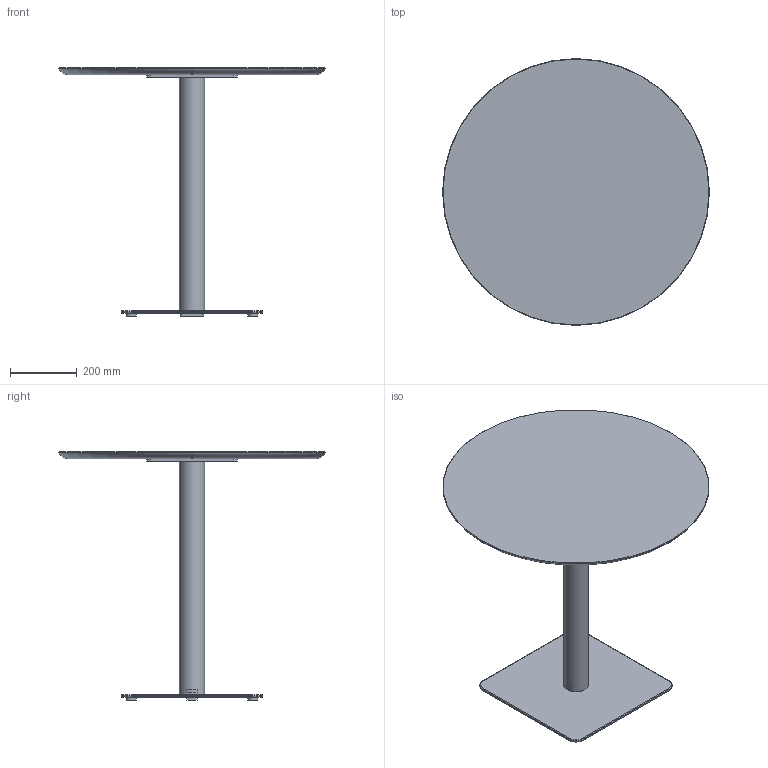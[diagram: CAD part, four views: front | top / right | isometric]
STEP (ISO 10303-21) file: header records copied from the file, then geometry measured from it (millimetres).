
FILE_DESCRIPTION( ('This file contains a STEP AP42 implementation' ,'as created by ZW3D STEP Interface translator.') ,'2;1' );
FILE_NAME( 'Henri - B_Carré - F1 - M3 - 700 x 700 x 750.stp' ,'24 912.161911', (''), ('ZWCAD Software Co.'), 'Version 1.0', 'ZW3D to STEP translator', '' );
FILE_SCHEMA(('AUTOMOTIVE_DESIGN { 1 0 10303 214 1 1 1 1 }'));
Length unit declared in the file: millimetre
Products named in the file (15): 0; PIED BISTROT PARAMETRIQUE_; COLONNE ACIER Ø76 V.02_; TUB-D076-02_; PLA-R76B-01_; CROIX ACIER 370 V.02_; CRX-X370-02_; SOCLE ACIER L 425x425 V.02_; SCL-R425-02_; PLA-R30A-01_; PLA-R30A-01; WUERTH 0276063020 Euro-screw 6.3x2 Verzinkt_; PLATEAU BISTROT PARAMETRIQUE_; insert_m6_13_; insert_m6_13
Assembly tree (22 placements, depth 3):
  0
  PIED BISTROT PARAMETRIQUE_
    COLONNE ACIER Ø76 V.02_
      TUB-D076-02_
      PLA-R76B-01_  x2
    CROIX ACIER 370 V.02_
      CRX-X370-02_
    SOCLE ACIER L 425x425 V.02_
      SCL-R425-02_
      PLA-R30A-01_
      PLA-R30A-01  x3
    WUERTH 0276063020 Euro-screw 6.3x2 Verzinkt_
    PLATEAU BISTROT PARAMETRIQUE_
      insert_m6_13_  x2
      insert_m6_13  x6
Bounding box: 800 x 800 x 744 mm (x, y, z)
Volume: 12053072.4 mm3; surface area: 1918859.5 mm2
Topology: 19 solids, 19 shells, 537 faces, 1310 edges, 822 vertices
Faces by surface type: plane 258, bspline 121, cylinder 102, cone 51, torus 5
Full cylindrical faces by diameter (mm): 4.88 x1, 6 x8, 6.3 x1, 8 x45, 12 x2, 14 x2, 30 x4, 72 x1, 76 x1
Entity records: 13362 total; most frequent: CARTESIAN_POINT 3810, ORIENTED_EDGE 1758, DIRECTION 1632, EDGE_CURVE 879, VERTEX_POINT 558, AXIS2_PLACEMENT_3D 544, VECTOR 544, LINE 544
